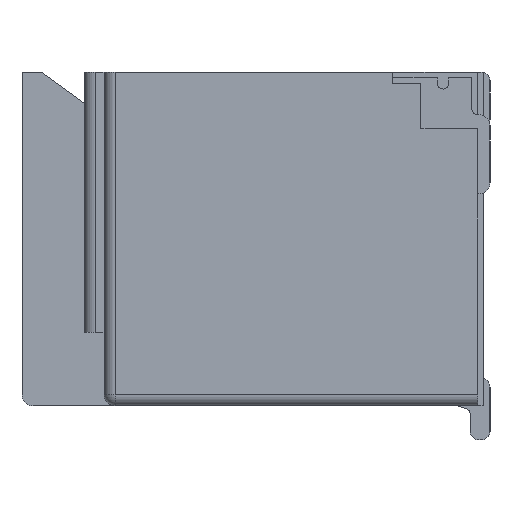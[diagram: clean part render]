
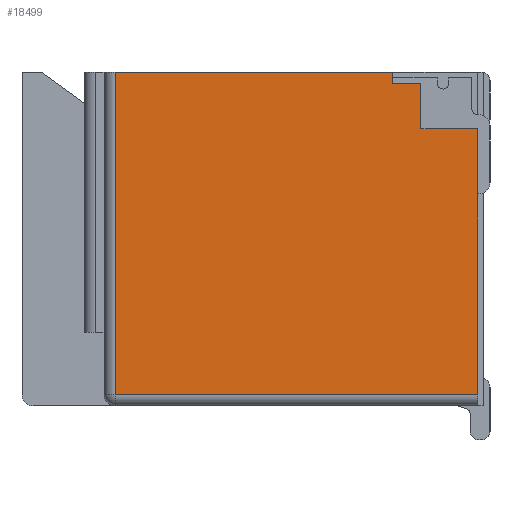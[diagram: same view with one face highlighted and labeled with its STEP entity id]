
A CAD part, left-side view. The second image highlights one B-rep face of the part: STEP entity #18499.
In plain terms, the highlighted planar face has unit normal (-1, 0, 0).
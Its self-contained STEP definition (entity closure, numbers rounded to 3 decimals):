
#1211=CARTESIAN_POINT('Vertex',(-11.5,1.6,5.9)) ;
#1214=CARTESIAN_POINT('Line Origine',(-11.5,1.6,5.8)) ;
#1218=CARTESIAN_POINT('Vertex',(-11.5,1.6,5.7)) ;
#1284=CARTESIAN_POINT('Vertex',(-11.5,1.1,4.9)) ;
#1287=CARTESIAN_POINT('Line Origine',(-11.5,0.6,4.9)) ;
#1291=CARTESIAN_POINT('Vertex',(-11.5,0.1,4.9)) ;
#1306=CARTESIAN_POINT('Line Origine',(-11.5,1.35,5.7)) ;
#1310=CARTESIAN_POINT('Vertex',(-11.5,1.1,5.7)) ;
#1325=CARTESIAN_POINT('Line Origine',(-11.5,1.1,5.3)) ;
#18433=CARTESIAN_POINT('Vertex',(-11.5,0.1,0.2)) ;
#18446=CARTESIAN_POINT('Line Origine',(-11.5,0.1,2.55)) ;
#18465=CARTESIAN_POINT('Axis2P3D Location',(-11.5,0.,0.)) ;
#18470=CARTESIAN_POINT('Line Origine',(-11.5,3.3,0.2)) ;
#18474=CARTESIAN_POINT('Vertex',(-11.5,6.5,0.2)) ;
#18477=CARTESIAN_POINT('Line Origine',(-11.5,4.05,5.9)) ;
#18481=CARTESIAN_POINT('Vertex',(-11.5,6.5,5.9)) ;
#18484=CARTESIAN_POINT('Line Origine',(-11.5,6.5,3.05)) ;
#1215=DIRECTION('Vector Direction',(0.,0.,1.)) ;
#1288=DIRECTION('Vector Direction',(0.,1.,0.)) ;
#1307=DIRECTION('Vector Direction',(0.,1.,0.)) ;
#1326=DIRECTION('Vector Direction',(0.,0.,1.)) ;
#18447=DIRECTION('Vector Direction',(0.,0.,-1.)) ;
#18466=DIRECTION('Axis2P3D Direction',(1.,0.,0.)) ;
#18467=DIRECTION('Axis2P3D XDirection',(0.,1.,0.)) ;
#18471=DIRECTION('Vector Direction',(0.,1.,0.)) ;
#18478=DIRECTION('Vector Direction',(0.,-1.,0.)) ;
#18485=DIRECTION('Vector Direction',(0.,0.,1.)) ;
#18468=AXIS2_PLACEMENT_3D('Plane Axis2P3D',#18465,#18466,#18467) ;
#18490=ORIENTED_EDGE('',*,*,#18476,.F.) ;
#18491=ORIENTED_EDGE('',*,*,#18450,.F.) ;
#18492=ORIENTED_EDGE('',*,*,#1293,.T.) ;
#18493=ORIENTED_EDGE('',*,*,#1329,.T.) ;
#18494=ORIENTED_EDGE('',*,*,#1312,.T.) ;
#18495=ORIENTED_EDGE('',*,*,#1220,.T.) ;
#18496=ORIENTED_EDGE('',*,*,#18483,.F.) ;
#18497=ORIENTED_EDGE('',*,*,#18488,.T.) ;
#1216=VECTOR('Line Direction',#1215,1.) ;
#1289=VECTOR('Line Direction',#1288,1.) ;
#1308=VECTOR('Line Direction',#1307,1.) ;
#1327=VECTOR('Line Direction',#1326,1.) ;
#18448=VECTOR('Line Direction',#18447,1.) ;
#18472=VECTOR('Line Direction',#18471,1.) ;
#18479=VECTOR('Line Direction',#18478,1.) ;
#18486=VECTOR('Line Direction',#18485,1.) ;
#18499=ADVANCED_FACE('\X2\96F64EF651E04F554F53\X0\',(#18498),#18469,.F.) ;
#1220=EDGE_CURVE('',#1219,#1212,#1217,.T.) ;
#1293=EDGE_CURVE('',#1292,#1285,#1290,.T.) ;
#1312=EDGE_CURVE('',#1311,#1219,#1309,.T.) ;
#1329=EDGE_CURVE('',#1285,#1311,#1328,.T.) ;
#18450=EDGE_CURVE('',#1292,#18434,#18449,.T.) ;
#18476=EDGE_CURVE('',#18434,#18475,#18473,.T.) ;
#18483=EDGE_CURVE('',#18482,#1212,#18480,.T.) ;
#18488=EDGE_CURVE('',#18482,#18475,#18487,.F.) ;
#18489=EDGE_LOOP('',(#18490,#18491,#18492,#18493,#18494,#18495,#18496,#18497)) ;
#18498=FACE_OUTER_BOUND('',#18489,.T.) ;
#1217=LINE('Line',#1214,#1216) ;
#1290=LINE('Line',#1287,#1289) ;
#1309=LINE('Line',#1306,#1308) ;
#1328=LINE('Line',#1325,#1327) ;
#18449=LINE('Line',#18446,#18448) ;
#18473=LINE('Line',#18470,#18472) ;
#18480=LINE('Line',#18477,#18479) ;
#18487=LINE('Line',#18484,#18486) ;
#18469=PLANE('Plane',#18468) ;
#1212=VERTEX_POINT('',#1211) ;
#1219=VERTEX_POINT('',#1218) ;
#1285=VERTEX_POINT('',#1284) ;
#1292=VERTEX_POINT('',#1291) ;
#1311=VERTEX_POINT('',#1310) ;
#18434=VERTEX_POINT('',#18433) ;
#18475=VERTEX_POINT('',#18474) ;
#18482=VERTEX_POINT('',#18481) ;
